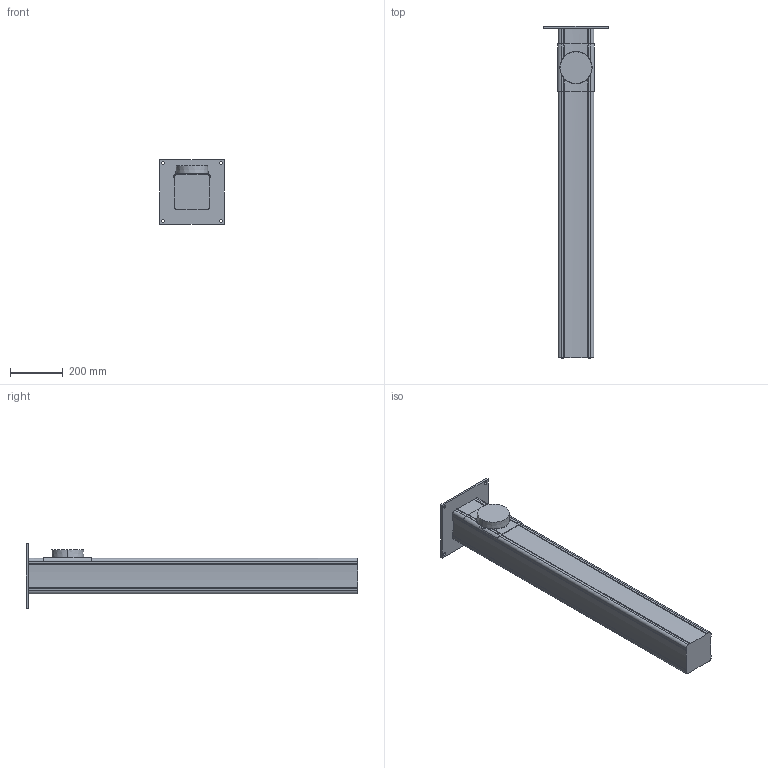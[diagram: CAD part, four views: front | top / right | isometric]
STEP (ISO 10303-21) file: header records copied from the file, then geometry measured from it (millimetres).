
FILE_DESCRIPTION((''),'2;1');
FILE_NAME('MTI1250-125','2015-12-02T',('Tomas Bellgran'),(''),'PRO/ENGINEER BY PARAMETRIC TECHNOLOGY CORPORATION, 2013410','PRO/ENGINEER BY PARAMETRIC TECHNOLOGY CORPORATION, 2013410','');
FILE_SCHEMA(('AUTOMOTIVE_DESIGN { 1 0 10303 214 1 1 1 1 }'));
Length unit declared in the file: millimetre
Products named in the file (6): 100565; 100731; G_MTI_SPIGOT_100; G_MTI_SPIGOT_100_TPE; 101330; MTI1250-125
Assembly tree (5 placements, depth 3):
  MTI1250-125
    100565
    100731
    101330
      G_MTI_SPIGOT_100
      G_MTI_SPIGOT_100_TPE
Bounding box: 245 x 1258 x 245 mm (x, y, z)
Volume: 22014019 mm3; surface area: 914442.8 mm2
Topology: 4 solids, 4 shells, 92 faces, 252 edges, 166 vertices
Faces by surface type: cylinder 52, plane 30, bspline 8, cone 2
Entity records: 13025 total; most frequent: CARTESIAN_POINT 8762, DIRECTION 514, ORIENTED_EDGE 504, PROPERTY_DEFINITION 255, EDGE_CURVE 252, REPRESENTATION 251, PROPERTY_DEFINITION_REPRESENTATION 251, DESCRIPTIVE_REPRESENTATION_ITEM 209
